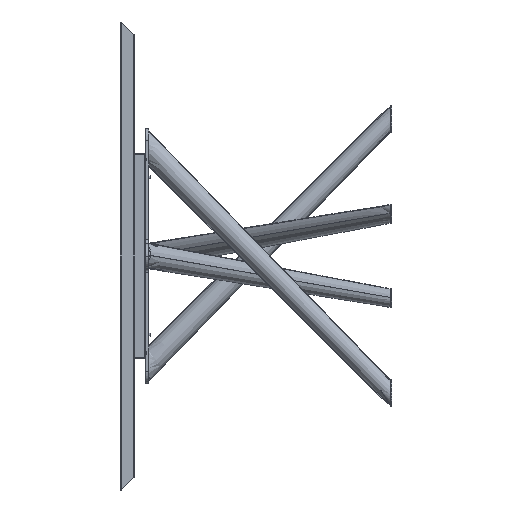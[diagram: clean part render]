
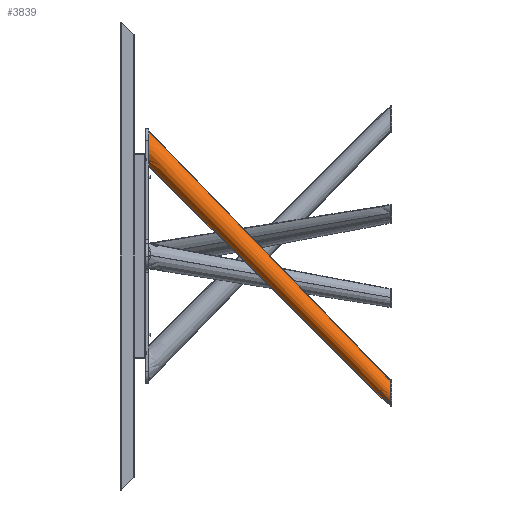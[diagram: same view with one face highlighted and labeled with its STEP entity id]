
A CAD part, left-side view. The second image highlights one B-rep face of the part: STEP entity #3839.
In plain terms, the highlighted conical face has half-angle 0.573 degrees and reference radius 25 mm.
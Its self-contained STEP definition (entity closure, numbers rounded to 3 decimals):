
#61 = CARTESIAN_POINT ( 'NONE',  ( -116.685, 0.227, -409.917 ) ) ;
#482 = EDGE_CURVE ( 'NONE', #15560, #5151, #1919, .T. ) ;
#1244 = LINE ( 'NONE', #14746, #9901 ) ;
#1301 = CARTESIAN_POINT ( 'NONE',  ( -113.065, 0., -338.343 ) ) ;
#1779 = VERTEX_POINT ( 'NONE', #9673 ) ;
#1919 =( BOUNDED_CURVE ( )  B_SPLINE_CURVE ( 3, ( #1301, #6599, #10646, #16230 ),
 .UNSPECIFIED., .F., .F. ) 
 B_SPLINE_CURVE_WITH_KNOTS ( ( 4, 4 ),
 ( 0.172, 3.31 ),
 .UNSPECIFIED. ) 
 CURVE ( )  GEOMETRIC_REPRESENTATION_ITEM ( )  RATIONAL_B_SPLINE_CURVE ( ( 1., 0.334, 0.334, 1. ) ) 
 REPRESENTATION_ITEM ( '' )  );
#2438 = CARTESIAN_POINT ( 'NONE',  ( -117.949, -17.433, -392.267 ) ) ;
#2539 = EDGE_CURVE ( 'NONE', #5151, #14986, #5555, .T. ) ;
#3168 = CARTESIAN_POINT ( 'NONE',  ( -14.298, 660., 336.819 ) ) ;
#3794 = VECTOR ( 'NONE', #16687, 1000. ) ;
#3839 = ADVANCED_FACE ( 'NONE', ( #5400 ), #7565, .T. ) ;
#3894 = EDGE_CURVE ( 'NONE', #1779, #11506, #10742, .T. ) ;
#5151 = VERTEX_POINT ( 'NONE', #7040 ) ;
#5339 = ORIENTED_EDGE ( 'NONE', *, *, #8782, .T. ) ;
#5351 = CARTESIAN_POINT ( 'NONE',  ( -2.49, 660., 245.144 ) ) ;
#5400 = FACE_OUTER_BOUND ( 'NONE', #7242, .T. ) ;
#5555 = LINE ( 'NONE', #61, #3794 ) ;
#6599 = CARTESIAN_POINT ( 'NONE',  ( -164.026, 0., -342.116 ) ) ;
#6887 = EDGE_CURVE ( 'NONE', #15560, #1779, #1244, .T. ) ;
#7040 = CARTESIAN_POINT ( 'NONE',  ( -116.725, 0., -410.142 ) ) ;
#7242 = EDGE_LOOP ( 'NONE', ( #17725, #16816, #12091, #5339, #10309 ) ) ;
#7565 = CONICAL_SURFACE ( 'NONE', #15615, 25., 0.01 ) ;
#8129 = CARTESIAN_POINT ( 'NONE',  ( -48.275, 660., 241.977 ) ) ;
#8782 = EDGE_CURVE ( 'NONE', #11506, #14986, #14365, .T. ) ;
#9302 = CARTESIAN_POINT ( 'NONE',  ( -56.207, 660., 303.559 ) ) ;
#9673 = CARTESIAN_POINT ( 'NONE',  ( 1.693, 655.157, 338.851 ) ) ;
#9901 = VECTOR ( 'NONE', #13398, 1000. ) ;
#10309 = ORIENTED_EDGE ( 'NONE', *, *, #2539, .F. ) ;
#10646 = CARTESIAN_POINT ( 'NONE',  ( -167.673, 0., -413.666 ) ) ;
#10705 = DIRECTION ( 'NONE',  ( 0.121, 0.697, 0.706 ) ) ;
#10706 = CARTESIAN_POINT ( 'NONE',  ( -113.065, 0., -338.343 ) ) ;
#10742 = CIRCLE ( 'NONE', #15290, 35. ) ;
#11506 = VERTEX_POINT ( 'NONE', #3168 ) ;
#12091 = ORIENTED_EDGE ( 'NONE', *, *, #3894, .T. ) ;
#12159 = DIRECTION ( 'NONE',  ( -0.121, -0.697, -0.706 ) ) ;
#12254 = DIRECTION ( 'NONE',  ( -0.051, -0.706, 0.706 ) ) ;
#13398 = DIRECTION ( 'NONE',  ( 0.121, 0.69, 0.713 ) ) ;
#13490 = CARTESIAN_POINT ( 'NONE',  ( 3.462, 679.882, 314.141 ) ) ;
#14365 =( BOUNDED_CURVE ( )  B_SPLINE_CURVE ( 3, ( #16128, #9302, #8129, #5351 ),
 .UNSPECIFIED., .F., .F. ) 
 B_SPLINE_CURVE_WITH_KNOTS ( ( 4, 4 ),
 ( 0.662, 3.31 ),
 .UNSPECIFIED. ) 
 CURVE ( )  GEOMETRIC_REPRESENTATION_ITEM ( )  RATIONAL_B_SPLINE_CURVE ( ( 1., 0.496, 0.496, 1. ) ) 
 REPRESENTATION_ITEM ( '' )  );
#14746 = CARTESIAN_POINT ( 'NONE',  ( -119.212, -35.093, -374.617 ) ) ;
#14986 = VERTEX_POINT ( 'NONE', #15534 ) ;
#15290 = AXIS2_PLACEMENT_3D ( 'NONE', #13490, #12159, #12254 ) ;
#15534 = CARTESIAN_POINT ( 'NONE',  ( -2.49, 660., 245.144 ) ) ;
#15560 = VERTEX_POINT ( 'NONE', #10706 ) ;
#15615 = AXIS2_PLACEMENT_3D ( 'NONE', #2438, #10705, #16188 ) ;
#16128 = CARTESIAN_POINT ( 'NONE',  ( -14.298, 660., 336.819 ) ) ;
#16188 = DIRECTION ( 'NONE',  ( 0.051, 0.706, -0.706 ) ) ;
#16230 = CARTESIAN_POINT ( 'NONE',  ( -116.725, 0., -410.142 ) ) ;
#16687 = DIRECTION ( 'NONE',  ( 0.122, 0.704, 0.699 ) ) ;
#16816 = ORIENTED_EDGE ( 'NONE', *, *, #6887, .T. ) ;
#17725 = ORIENTED_EDGE ( 'NONE', *, *, #482, .F. ) ;
